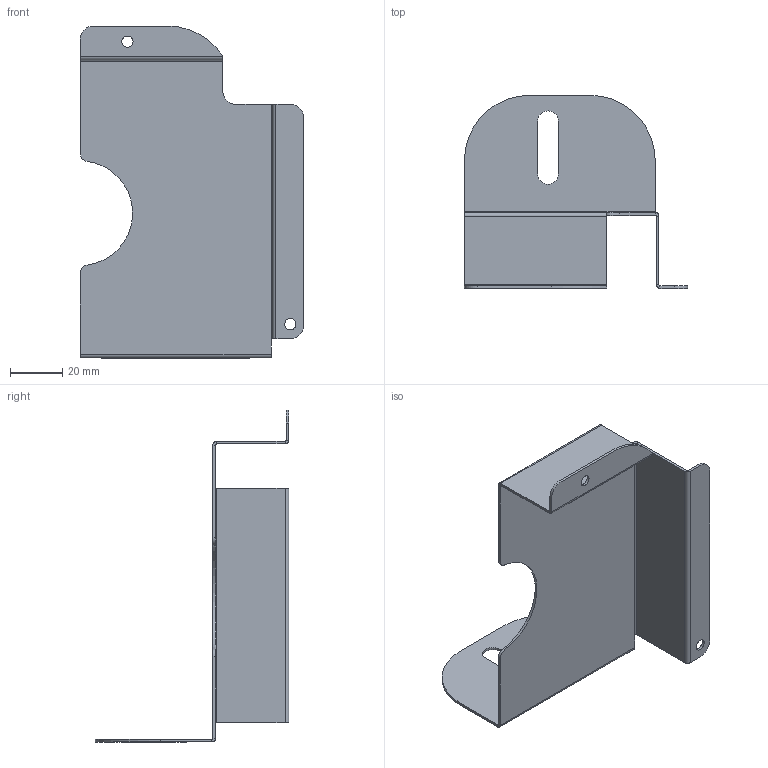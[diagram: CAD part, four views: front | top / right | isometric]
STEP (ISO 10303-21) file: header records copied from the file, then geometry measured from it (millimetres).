
FILE_DESCRIPTION (( 'STEP AP214' ), '1' );
FILE_NAME ('10143V000_Trafo_Halteblech_Index_2.STEP', '2014-05-23T08:29:58', ( 'Admin' ), ( '' ), 'SwSTEP 2.0', 'SolidWorks 2014', '' );
FILE_SCHEMA (( 'AUTOMOTIVE_DESIGN' ));
Length unit declared in the file: millimetre
Products named in the file (1): 10143V000_Trafo_Halteblech_Index_2
Bounding box: 85.4 x 74 x 127 mm (x, y, z)
Volume: 15783.8 mm3; surface area: 32276.9 mm2
Topology: 1 solids, 1 shells, 131 faces, 320 edges, 200 vertices
Faces by surface type: plane 57, bspline 48, cylinder 26
Entity records: 6740 total; most frequent: CARTESIAN_POINT 3916, ORIENTED_EDGE 640, DIRECTION 444, EDGE_CURVE 320, VERTEX_POINT 200, VECTOR 172, LINE 172, EDGE_LOOP 146
